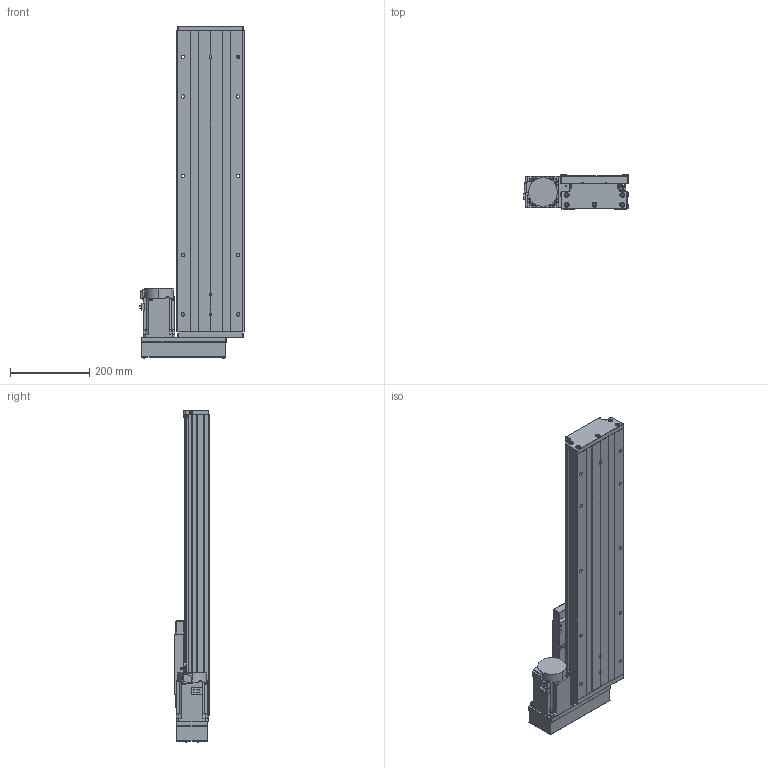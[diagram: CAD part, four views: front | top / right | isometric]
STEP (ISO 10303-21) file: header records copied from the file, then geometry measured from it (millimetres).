
FILE_DESCRIPTION (( 'STEP AP203' ), '1' );
FILE_NAME ('GTH17-500-BL-M75-C4.step', '2023-06-30T12:01:00', ( '微软用户' ), ( '微软中国' ), 'SwSTEP 2.0', 'SolidWorks 2020', '' );
FILE_SCHEMA (( 'CONFIG_CONTROL_DESIGN' ));
Length unit declared in the file: millimetre
Products named in the file (19): CTHA60-016; HG-KN73J-S100; GTH17-002_GTH17-002; GBT 70.1-M3℅5; GBT 70.2-M4¡Á45_M4¡Á35; GTH17-004; GBT77-2000 M3×3; GTH17-015-2_CTHA86-015-2; GTH17-005; GBT 70.1-M6¡Á20_M6¡Á20; GTH17-033; GB1155-6X6; GTH17-031; GTH17-500-BL-M75-C4; CTHA60-017; GBT 70.2-M3¡Á5_M3¡Á6; EE_SX911P_R; す晦芛蹟隊 M3℅5; GTH17-001_500
Assembly tree (58 placements, depth 2):
  GTH17-500-BL-M75-C4
    GTH17-001_500
    GTH17-002_GTH17-002
    GTH17-004
    GTH17-005
    GB1155-6X6  x2
    CTHA60-017  x3
    EE_SX911P_R  x3
    CTHA60-016  x2
    GBT 70.1-M3℅5  x6
    GBT77-2000 M3×3  x6
    GBT 70.1-M6¡Á20_M6¡Á20  x10
    GTH17-031
    GBT 70.2-M3¡Á5_M3¡Á6  x8
    す晦芛蹟隊 M3℅5  x6
    HG-KN73J-S100
    GBT 70.2-M4¡Á45_M4¡Á35  x4
    GTH17-015-2_CTHA86-015-2
    GTH17-033
Bounding box: 264.3 x 87 x 838.2 mm (x, y, z)
Volume: 7228228.2 mm3; surface area: 1056690.2 mm2
Topology: 61 solids, 61 shells, 2439 faces, 5821 edges, 3603 vertices
Faces by surface type: plane 1308, cylinder 658, cone 297, torus 124, sphere 32, bspline 20
Entity records: 44430 total; most frequent: CARTESIAN_POINT 10316, DIRECTION 6421, ORIENTED_EDGE 6354, EDGE_CURVE 3177, AXIS2_PLACEMENT_3D 2186, VECTOR 2049, LINE 2049, VERTEX_POINT 2015
